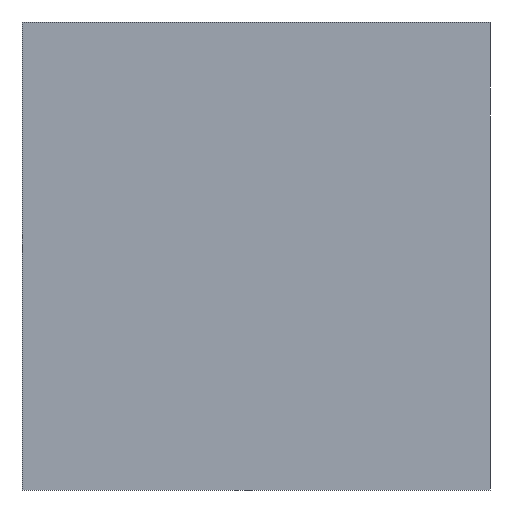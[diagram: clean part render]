
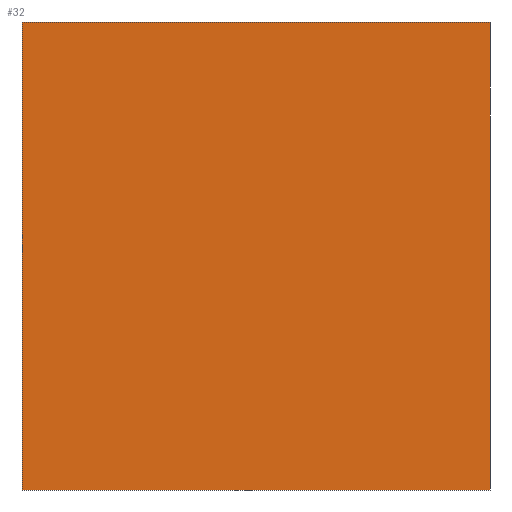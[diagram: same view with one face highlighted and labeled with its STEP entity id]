
A CAD part, front view. The second image highlights one B-rep face of the part: STEP entity #32.
In plain terms, the highlighted planar face has unit normal (0, -1, 0).
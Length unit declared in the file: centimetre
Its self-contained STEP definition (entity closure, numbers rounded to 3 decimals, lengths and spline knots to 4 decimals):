
#12 = ORIENTED_EDGE ( 'NONE', *, *, #61, .F. ) ;
#16 = CARTESIAN_POINT ( 'NONE',  ( 0., 0., 1000. ) ) ;
#18 = VERTEX_POINT ( 'NONE', #177 ) ;
#25 = VERTEX_POINT ( 'NONE', #156 ) ;
#32 = ADVANCED_FACE ( 'NONE', ( #199 ), #129, .F. ) ;
#36 = CARTESIAN_POINT ( 'NONE',  ( 0., 0., 1000. ) ) ;
#43 = VERTEX_POINT ( 'NONE', #403 ) ;
#54 = VERTEX_POINT ( 'NONE', #16 ) ;
#61 = EDGE_CURVE ( 'NONE', #25, #18, #269, .T. ) ;
#62 = VECTOR ( 'NONE', #382, 100. ) ;
#84 = AXIS2_PLACEMENT_3D ( 'NONE', #346, #233, #333 ) ;
#92 = VECTOR ( 'NONE', #230, 100. ) ;
#108 = CARTESIAN_POINT ( 'NONE',  ( 0., 0., 0. ) ) ;
#128 = EDGE_CURVE ( 'NONE', #54, #43, #385, .T. ) ;
#129 = PLANE ( 'NONE',  #84 ) ;
#149 = CARTESIAN_POINT ( 'NONE',  ( 1000., 0., 1000. ) ) ;
#156 = CARTESIAN_POINT ( 'NONE',  ( 1000., 0., 1000. ) ) ;
#170 = CARTESIAN_POINT ( 'NONE',  ( 0., 0., 1000. ) ) ;
#177 = CARTESIAN_POINT ( 'NONE',  ( 1000., 0., 0. ) ) ;
#178 = VECTOR ( 'NONE', #274, 100. ) ;
#199 = FACE_OUTER_BOUND ( 'NONE', #203, .T. ) ;
#203 = EDGE_LOOP ( 'NONE', ( #393, #12, #372, #279 ) ) ;
#230 = DIRECTION ( 'NONE',  ( 0., 0., -1. ) ) ;
#233 = DIRECTION ( 'NONE',  ( 0., 1., 0. ) ) ;
#251 = DIRECTION ( 'NONE',  ( 1., 0., 0. ) ) ;
#252 = LINE ( 'NONE', #108, #62 ) ;
#269 = LINE ( 'NONE', #149, #178 ) ;
#274 = DIRECTION ( 'NONE',  ( 0., 0., -1. ) ) ;
#279 = ORIENTED_EDGE ( 'NONE', *, *, #128, .T. ) ;
#293 = LINE ( 'NONE', #36, #392 ) ;
#311 = EDGE_CURVE ( 'NONE', #54, #25, #293, .T. ) ;
#333 = DIRECTION ( 'NONE',  ( 0., 0., 1. ) ) ;
#346 = CARTESIAN_POINT ( 'NONE',  ( 0., 0., 1000. ) ) ;
#350 = EDGE_CURVE ( 'NONE', #43, #18, #252, .T. ) ;
#372 = ORIENTED_EDGE ( 'NONE', *, *, #311, .F. ) ;
#382 = DIRECTION ( 'NONE',  ( 1., 0., 0. ) ) ;
#385 = LINE ( 'NONE', #170, #92 ) ;
#392 = VECTOR ( 'NONE', #251, 100. ) ;
#393 = ORIENTED_EDGE ( 'NONE', *, *, #350, .T. ) ;
#403 = CARTESIAN_POINT ( 'NONE',  ( 0., 0., 0. ) ) ;
